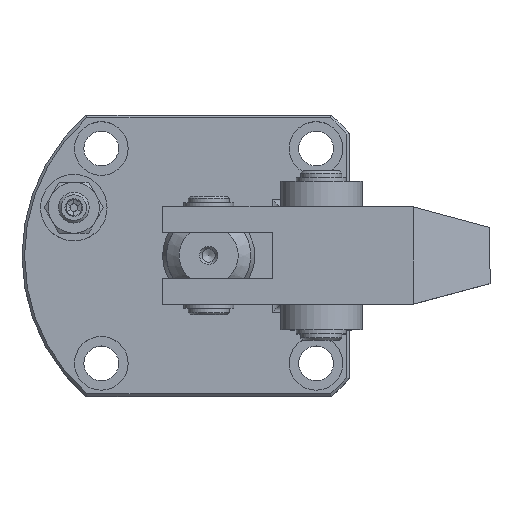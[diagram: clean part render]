
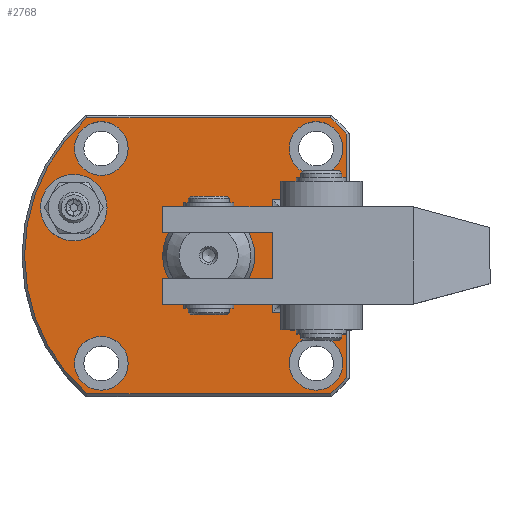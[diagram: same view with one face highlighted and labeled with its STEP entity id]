
A CAD part, top view. The second image highlights one B-rep face of the part: STEP entity #2768.
In plain terms, the highlighted planar face has unit normal (0, 0, 1).
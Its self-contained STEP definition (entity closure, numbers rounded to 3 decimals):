
#132=CIRCLE('',#3051,36.);
#133=CIRCLE('',#3052,36.);
#134=CIRCLE('',#3053,36.);
#135=CIRCLE('',#3054,6.5);
#136=CIRCLE('',#3055,5.25);
#137=CIRCLE('',#3056,5.25);
#138=CIRCLE('',#3057,9.);
#139=CIRCLE('',#3058,5.25);
#140=CIRCLE('',#3059,5.25);
#348=PLANE('',#3050);
#436=LINE('',#4263,#574);
#445=LINE('',#4286,#583);
#446=LINE('',#4289,#584);
#447=LINE('',#4291,#585);
#448=LINE('',#4293,#586);
#449=LINE('',#4296,#587);
#450=LINE('',#4300,#588);
#574=VECTOR('',#3415,1000.);
#583=VECTOR('',#3428,1000.);
#584=VECTOR('',#3429,1000.);
#585=VECTOR('',#3430,1000.);
#586=VECTOR('',#3431,1000.);
#587=VECTOR('',#3434,1000.);
#588=VECTOR('',#3437,1000.);
#728=ORIENTED_EDGE('',*,*,#1454,.T.);
#729=ORIENTED_EDGE('',*,*,#1455,.T.);
#730=ORIENTED_EDGE('',*,*,#1456,.T.);
#731=ORIENTED_EDGE('',*,*,#1457,.T.);
#732=ORIENTED_EDGE('',*,*,#1444,.T.);
#733=ORIENTED_EDGE('',*,*,#1458,.T.);
#734=ORIENTED_EDGE('',*,*,#1459,.T.);
#735=ORIENTED_EDGE('',*,*,#1460,.T.);
#736=ORIENTED_EDGE('',*,*,#1461,.T.);
#737=ORIENTED_EDGE('',*,*,#1462,.T.);
#738=ORIENTED_EDGE('',*,*,#1463,.F.);
#739=ORIENTED_EDGE('',*,*,#1464,.T.);
#740=ORIENTED_EDGE('',*,*,#1465,.T.);
#741=ORIENTED_EDGE('',*,*,#1466,.T.);
#742=ORIENTED_EDGE('',*,*,#1467,.T.);
#743=ORIENTED_EDGE('',*,*,#1468,.T.);
#1444=EDGE_CURVE('',#1808,#1809,#436,.T.);
#1454=EDGE_CURVE('',#1816,#1817,#445,.T.);
#1455=EDGE_CURVE('',#1817,#1818,#446,.F.);
#1456=EDGE_CURVE('',#1818,#1819,#447,.F.);
#1457=EDGE_CURVE('',#1819,#1808,#448,.F.);
#1458=EDGE_CURVE('',#1809,#1820,#132,.T.);
#1459=EDGE_CURVE('',#1820,#1821,#449,.T.);
#1460=EDGE_CURVE('',#1821,#1822,#133,.T.);
#1461=EDGE_CURVE('',#1822,#1823,#450,.T.);
#1462=EDGE_CURVE('',#1823,#1816,#134,.T.);
#1463=EDGE_CURVE('',#1824,#1824,#135,.T.);
#1464=EDGE_CURVE('',#1825,#1825,#136,.T.);
#1465=EDGE_CURVE('',#1826,#1826,#137,.T.);
#1466=EDGE_CURVE('',#1827,#1827,#138,.T.);
#1467=EDGE_CURVE('',#1828,#1828,#139,.T.);
#1468=EDGE_CURVE('',#1829,#1829,#140,.T.);
#1808=VERTEX_POINT('',#4264);
#1809=VERTEX_POINT('',#4265);
#1816=VERTEX_POINT('',#4287);
#1817=VERTEX_POINT('',#4288);
#1818=VERTEX_POINT('',#4290);
#1819=VERTEX_POINT('',#4292);
#1820=VERTEX_POINT('',#4295);
#1821=VERTEX_POINT('',#4297);
#1822=VERTEX_POINT('',#4299);
#1823=VERTEX_POINT('',#4301);
#1824=VERTEX_POINT('',#4304);
#1825=VERTEX_POINT('',#4306);
#1826=VERTEX_POINT('',#4308);
#1827=VERTEX_POINT('',#4310);
#1828=VERTEX_POINT('',#4312);
#1829=VERTEX_POINT('',#4314);
#2085=EDGE_LOOP('',(#728,#729,#730,#731,#732,#733,#734,#735,#736,#737));
#2086=EDGE_LOOP('',(#738));
#2087=EDGE_LOOP('',(#739));
#2088=EDGE_LOOP('',(#740));
#2089=EDGE_LOOP('',(#741));
#2090=EDGE_LOOP('',(#742));
#2091=EDGE_LOOP('',(#743));
#2393=FACE_BOUND('',#2085,.T.);
#2394=FACE_BOUND('',#2086,.T.);
#2395=FACE_BOUND('',#2087,.T.);
#2396=FACE_BOUND('',#2088,.T.);
#2397=FACE_BOUND('',#2089,.T.);
#2398=FACE_BOUND('',#2090,.T.);
#2399=FACE_BOUND('',#2091,.T.);
#2768=ADVANCED_FACE('',(#2393,#2394,#2395,#2396,#2397,#2398,#2399),#348,
 .T.);
#3050=AXIS2_PLACEMENT_3D('',#4285,#3426,#3427);
#3051=AXIS2_PLACEMENT_3D('',#4294,#3432,#3433);
#3052=AXIS2_PLACEMENT_3D('',#4298,#3435,#3436);
#3053=AXIS2_PLACEMENT_3D('',#4302,#3438,#3439);
#3054=AXIS2_PLACEMENT_3D('',#4303,#3440,#3441);
#3055=AXIS2_PLACEMENT_3D('',#4305,#3442,#3443);
#3056=AXIS2_PLACEMENT_3D('',#4307,#3444,#3445);
#3057=AXIS2_PLACEMENT_3D('',#4309,#3446,#3447);
#3058=AXIS2_PLACEMENT_3D('',#4311,#3448,#3449);
#3059=AXIS2_PLACEMENT_3D('',#4313,#3450,#3451);
#3415=DIRECTION('',(0.,1.,0.));
#3426=DIRECTION('',(0.,0.,1.));
#3427=DIRECTION('',(0.,-1.,0.));
#3428=DIRECTION('',(0.,1.,0.));
#3429=DIRECTION('',(1.,0.,0.));
#3430=DIRECTION('',(0.,-1.,0.));
#3431=DIRECTION('',(-1.,0.,0.));
#3432=DIRECTION('',(0.,0.,1.));
#3433=DIRECTION('',(0.,-1.,0.));
#3434=DIRECTION('',(-1.,0.,0.));
#3435=DIRECTION('',(0.,0.,1.));
#3436=DIRECTION('',(0.,-1.,0.));
#3437=DIRECTION('',(1.,0.,0.));
#3438=DIRECTION('',(0.,0.,1.));
#3439=DIRECTION('',(0.,-1.,0.));
#3440=DIRECTION('',(0.,0.,1.));
#3441=DIRECTION('',(1.,0.,0.));
#3442=DIRECTION('',(0.,0.,-1.));
#3443=DIRECTION('',(0.,-1.,0.));
#3444=DIRECTION('',(0.,0.,-1.));
#3445=DIRECTION('',(0.,-1.,0.));
#3446=DIRECTION('',(0.,0.,-1.));
#3447=DIRECTION('',(0.,-1.,0.));
#3448=DIRECTION('',(0.,0.,-1.));
#3449=DIRECTION('',(0.,-1.,0.));
#3450=DIRECTION('',(0.,0.,-1.));
#3451=DIRECTION('',(0.,-1.,0.));
#4263=CARTESIAN_POINT('',(17.75,29.,15.));
#4264=CARTESIAN_POINT('',(17.75,40.,15.));
#4265=CARTESIAN_POINT('',(17.75,52.812,15.));
#4285=CARTESIAN_POINT('',(-9.25,29.,15.));
#4286=CARTESIAN_POINT('',(17.75,29.,15.));
#4287=CARTESIAN_POINT('',(17.75,5.188,15.));
#4288=CARTESIAN_POINT('',(17.75,18.,15.));
#4289=CARTESIAN_POINT('',(4.75,18.,15.));
#4290=CARTESIAN_POINT('',(3.25,18.,15.));
#4291=CARTESIAN_POINT('',(3.25,29.,15.));
#4292=CARTESIAN_POINT('',(3.25,40.,15.));
#4293=CARTESIAN_POINT('',(-9.25,40.,15.));
#4294=CARTESIAN_POINT('',(-9.25,29.,15.));
#4295=CARTESIAN_POINT('',(14.562,56.,15.));
#4296=CARTESIAN_POINT('',(-9.25,56.,15.));
#4297=CARTESIAN_POINT('',(-33.062,56.,15.));
#4298=CARTESIAN_POINT('',(-9.25,29.,15.));
#4299=CARTESIAN_POINT('',(-33.062,2.,15.));
#4300=CARTESIAN_POINT('',(-9.25,2.,15.));
#4301=CARTESIAN_POINT('',(14.562,2.,15.));
#4302=CARTESIAN_POINT('',(-9.25,29.,15.));
#4303=CARTESIAN_POINT('',(-35.62,38.42,15.));
#4304=CARTESIAN_POINT('',(-29.12,38.42,15.));
#4305=CARTESIAN_POINT('',(-30.25,8.,15.));
#4306=CARTESIAN_POINT('',(-30.25,2.75,15.));
#4307=CARTESIAN_POINT('',(11.75,8.,15.));
#4308=CARTESIAN_POINT('',(11.75,2.75,15.));
#4309=CARTESIAN_POINT('',(-9.25,29.,15.));
#4310=CARTESIAN_POINT('',(-9.25,20.,15.));
#4311=CARTESIAN_POINT('',(-30.25,50.,15.));
#4312=CARTESIAN_POINT('',(-30.25,44.75,15.));
#4313=CARTESIAN_POINT('',(11.75,50.,15.));
#4314=CARTESIAN_POINT('',(11.75,44.75,15.));
